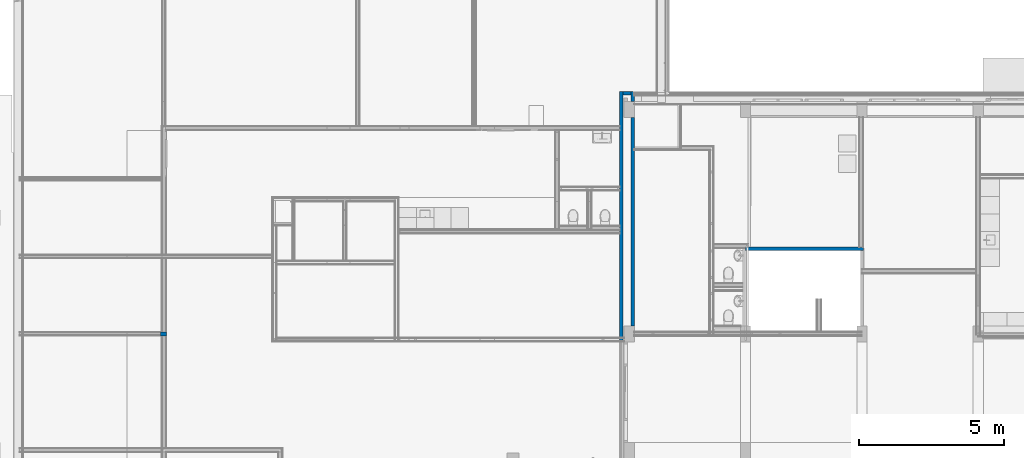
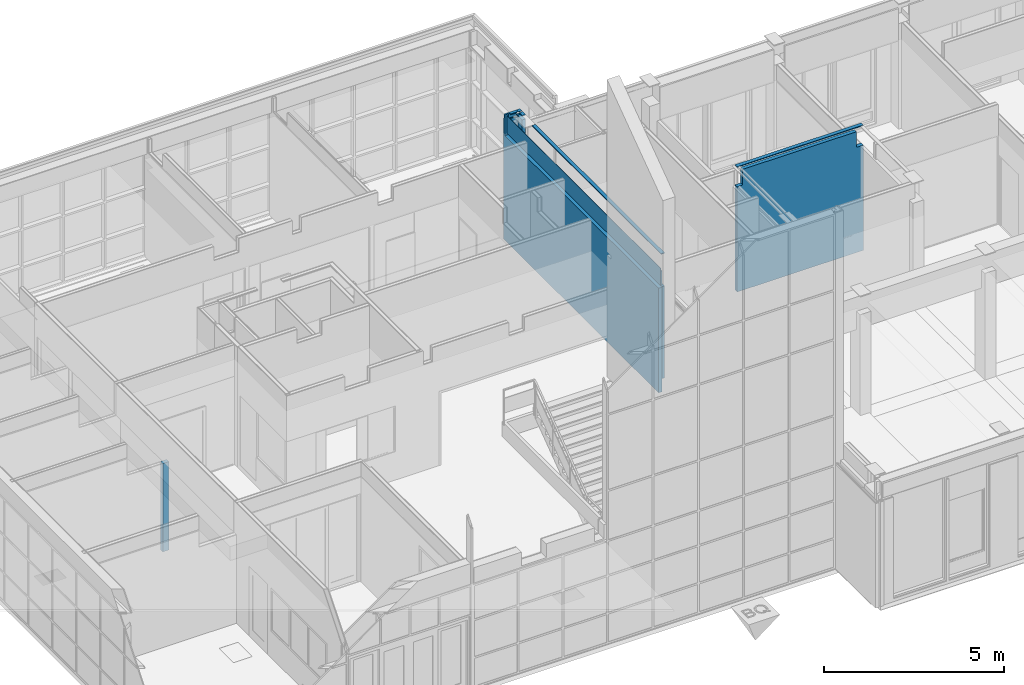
# One storey, part 18 of 109: 5 walls.
"""IFC2X3 building model written with IfcOpenShell, lengths in millimetres."""

from ifc_helpers import new_model, entity, si_unit, converted_unit, derived_unit, money_unit, direction, frame, origin_with_axes, place, context, subcontext, project, spatial, faceted_brep, material, type_object, element, save


model = new_model("IFC2X3")

# Units and contexts
model_context = context("Model", 3, precision=0.01, world=origin_with_axes(), true_north=direction((0.0, 1.0)))
body_context = subcontext(model_context, "Body", "Model", "MODEL_VIEW")
ifc_project = project(units=[si_unit("LENGTHUNIT", "METRE", prefix="MILLI"), si_unit("AREAUNIT", "SQUARE_METRE"), si_unit("VOLUMEUNIT", "CUBIC_METRE"), converted_unit("PLANEANGLEUNIT", "DEGREE", entity("IfcPlaneAngleMeasure", 0.0174532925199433), si_unit("PLANEANGLEUNIT", "RADIAN"), dimensions=[0, 0, 0, 0, 0, 0, 0]), money_unit("EUR"), converted_unit("TIMEUNIT", "Year", entity("IfcTimeMeasure", 31557600.0), si_unit("TIMEUNIT", "SECOND"), dimensions=[0, 0, 1, 0, 0, 0, 0]), si_unit("MASSUNIT", "GRAM", prefix="KILO"), si_unit("THERMODYNAMICTEMPERATUREUNIT", "DEGREE_CELSIUS"), si_unit("LUMINOUSINTENSITYUNIT", "LUMEN"), si_unit("ENERGYUNIT", "JOULE", prefix="MEGA"), derived_unit("THERMALCONDUCTANCEUNIT", [(si_unit("POWERUNIT", "WATT"), 1), (si_unit("LENGTHUNIT", "METRE"), -1), (si_unit("THERMODYNAMICTEMPERATUREUNIT", "KELVIN"), -1)]), derived_unit("SPECIFICHEATCAPACITYUNIT", [(si_unit("ENERGYUNIT", "JOULE"), 1), (si_unit("MASSUNIT", "GRAM", prefix="KILO"), -1), (si_unit("THERMODYNAMICTEMPERATUREUNIT", "KELVIN"), -1)]), derived_unit("MASSDENSITYUNIT", [(si_unit("MASSUNIT", "GRAM", prefix="KILO"), 1), (si_unit("VOLUMEUNIT", "CUBIC_METRE"), -1)])], contexts=[model_context])

# Site, building, storey
site_placement = place(None, origin_with_axes())
site = spatial("IfcSite", under=ifc_project, at=site_placement, Name="<site naam>", CompositionType="ELEMENT")
building_placement = place(site_placement, origin_with_axes())
building = spatial("IfcBuilding", under=site, at=building_placement, Name="<Naam gebouw>", CompositionType="ELEMENT")
storey_placement = place(building_placement, origin_with_axes())
storey = spatial("IfcBuildingStorey", under=building, at=storey_placement, Name="00 Begane grond", CompositionType="ELEMENT", Elevation=0.0)

# Walls
ifc_material_1 = material(Name="ALG - BUITENBLAD")
wall_type_1 = type_object("IfcWallType", Name="ALG - BUITENBLAD 200", PredefinedType="NOTDEFINED")
wall_1_placement = place(storey_placement, frame((-3919.999999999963, 11937.50000000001, 3.000000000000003), z_axis=(0.0, 0.0, 1.0), x_axis=(0.0, 1.0, 0.0)))
element("IfcWall", 1, at=wall_1_placement, inside=storey, type_object=wall_type_1, material=ifc_material_1, Name="21_Binnenwand_ALG", context=body_context, shape_type="Brep", body=[
    faceted_brep([(0.0, 0.0, 2997.0), (125.0, 0.0, 2997.0), (125.0, 200.0000000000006, 2997.0), (0.0, 200.0000000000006, 2997.0), (0.0, 0.0, 0.0), (125.0, 0.0, 0.0), (125.0, 199.9999999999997, 0.0), (0.0, 199.9999999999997, 0.0)], [[[0, 1, 2, 3]], [[4, 5, 1, 0]], [[2, 1, 5, 6]], [[3, 2, 6, 7]], [[4, 0, 3, 7]], [[7, 6, 5, 4]]]),
])
ifc_material_2 = material(Name="ALG - BINNENWAND")
wall_type_2 = type_object("IfcWallType", Name="ALG - BINNENWAND 120", PredefinedType="NOTDEFINED")
wall_2_placement = place(storey_placement, frame((15999.98510814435, 14985.54797767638, 0.0), z_axis=(0.0, 0.0, 1.0), x_axis=(0.9999999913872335, -0.0001312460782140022, 0.0)))
element("IfcWall", 2, at=wall_2_placement, inside=storey, type_object=wall_type_2, material=ifc_material_2, Name="22_Binnenwand_ALG", context=body_context, shape_type="Brep", body=[
    faceted_brep([(175.014893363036, 0.0, 4100.0), (3825.01492479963, 0.0, 4100.0), (3825.01492479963, 0.0, 3570.0), (4050.014926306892, 0.0, 3570.0), (4050.014926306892, 0.0, 0.0), (0.0, 0.0, 0.0), (0.0, 0.0, 3570.0), (175.014893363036, 0.0, 3570.0), (175.0306428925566, -119.9999999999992, 4100.0), (3825.030674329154, -119.9999999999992, 4100.0), (3825.030674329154, -119.9999999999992, 3570.0), (4050.014926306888, -119.9999999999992, 3570.0), (4050.014926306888, -119.9999999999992, 0.0), (0.0, -119.9999999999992, 0.0), (0.0, -119.9999999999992, 3570.0), (175.0306428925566, -119.9999999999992, 3570.0)], [[[0, 1, 2, 3, 4, 5, 6, 7]], [[8, 9, 1, 0]], [[10, 2, 1, 9]], [[10, 11, 3, 2]], [[4, 3, 11, 12]], [[13, 5, 4, 12]], [[13, 14, 6, 5]], [[15, 7, 6, 14]], [[15, 8, 0, 7]], [[11, 10, 9, 8, 15, 14, 13, 12]]]),
    faceted_brep([(4050.014926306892, 0.0, 4250.0), (4050.014926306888, -119.9999999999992, 4250.0), (4050.014926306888, -119.9999999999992, 4220.0), (4050.014926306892, 0.0, 4220.0), (0.0, 0.0, 4250.0), (0.0, -119.9999999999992, 4250.0), (0.0, -119.9999999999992, 4220.0), (0.0, 0.0, 4220.0)], [[[0, 1, 2, 3]], [[4, 5, 1, 0]], [[1, 5, 6, 2]], [[2, 6, 7, 3]], [[4, 0, 3, 7]], [[5, 4, 7, 6]]]),
])
wall_type_3 = type_object("IfcWallType", Name="ALG - BINNENWAND 110", PredefinedType="NOTDEFINED")
wall_3_placement = place(storey_placement, frame((11665.00000000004, 20334.99999999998, 0.0), z_axis=(0.0, 0.0, 1.0), x_axis=(0.0, -1.0, 0.0)))
element("IfcWall", 3, at=wall_3_placement, inside=storey, type_object=wall_type_3, material=ifc_material_2, Name="21_Binnenwand_ALG", context=body_context, shape_type="Brep", body=[
    faceted_brep([(69.99999999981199, 109.9999999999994, 3649.999908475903), (69.99999999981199, 109.9999999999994, 3549.999998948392), (8609.999999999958, 109.9999999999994, 3549.999998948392), (8609.999999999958, 109.9999999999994, 0.0), (0.0, 109.9999999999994, 0.0), (0.0, 109.9999999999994, 49.99999999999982), (0.0, 109.9999999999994, 4100.0), (10.00000241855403, 109.9999999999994, 4100.0), (10.00000241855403, 109.9999999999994, 4250.0), (69.99999999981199, 109.9999999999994, 4250.0), (70.0000000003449, 109.9999999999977, 4100.0), (8609.999999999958, 109.9999999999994, 4100.0), (8609.999999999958, 109.9999999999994, 3649.999908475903), (69.99999999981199, 89.99999800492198, 3649.999908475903), (69.99999999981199, 89.99999800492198, 3619.999897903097), (69.99999999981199, 59.99999570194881, 3619.999897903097), (69.99999999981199, 59.99999570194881, 4209.999936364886), (69.99999999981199, 70.49999999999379, 4209.999936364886), (70.0000000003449, 70.49999999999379, 4100.0), (69.99999999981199, 2.420893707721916e-06, 4250.0), (69.99999999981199, 2.420893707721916e-06, 3549.999998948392), (8609.999999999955, 2.420895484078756e-06, 3549.999998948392), (8609.999999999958, 0.0, 0.0), (0.0, 0.0, 0.0), (0.0, 0.0, 49.99999999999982), (0.0, 0.0, 4100.0), (10.00000241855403, 0.0, 4100.0), (10.00000241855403, 0.0, 4250.0), (8609.999999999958, 70.49999999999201, 4100.0), (8609.99999999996, 89.99999800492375, 3619.999897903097), (8609.99999999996, 89.99999800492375, 3649.999908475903), (8609.999999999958, 70.49999999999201, 4209.999936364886), (8609.999999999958, 59.99999570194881, 4209.999936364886), (8609.999999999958, 59.99999570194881, 3619.999897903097)], [[[0, 1, 2, 3, 4, 5, 6, 7, 8, 9, 10, 11, 12]], [[1, 0, 13, 14, 15, 16, 17, 18, 10, 9, 19, 20]], [[21, 2, 1, 20]], [[2, 21, 22, 3]], [[4, 3, 22, 23]], [[5, 4, 23, 24]], [[5, 24, 25, 6]], [[25, 26, 7, 6]], [[27, 8, 7, 26]], [[27, 19, 9, 8]], [[18, 28, 11, 10]], [[29, 30, 12, 11, 28, 31, 32, 33]], [[13, 0, 12, 30]], [[13, 30, 29, 14]], [[14, 29, 33, 15]], [[15, 33, 32, 16]], [[32, 31, 17, 16]], [[18, 17, 31, 28]], [[21, 20, 19, 27, 26, 25, 24, 23, 22]]]),
])
wall_4_placement = place(storey_placement, frame((12175.00000000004, 20334.99999999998, 0.0), z_axis=(0.0, 0.0, 1.0), x_axis=(0.0, -1.0, 0.0)))
element("IfcWall", 4, at=wall_4_placement, inside=storey, type_object=wall_type_3, material=ifc_material_2, Name="21_Binnenwand_ALG", context=body_context, shape_type="Brep", body=[
    faceted_brep([(884.999999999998, -109.9999999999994, 4250.0), (8059.999999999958, -110.000000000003, 4250.0), (8059.999999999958, 0.0, 4250.0), (884.999999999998, 0.0, 4250.0), (884.999999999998, -110.000000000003, 4220.0), (8059.999999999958, -110.000000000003, 4220.0), (8059.999999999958, 0.0, 4220.0), (884.999999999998, 0.0, 4220.0)], [[[0, 1, 2, 3]], [[4, 5, 1, 0]], [[5, 6, 2, 1]], [[3, 2, 6, 7]], [[4, 0, 3, 7]], [[7, 6, 5, 4]]]),
    faceted_brep([(884.999999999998, -109.9999999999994, 3120.0), (8059.999999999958, -109.9999999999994, 3120.0), (8059.999999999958, 0.0, 3120.0), (884.999999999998, 0.0, 3120.0), (884.999999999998, -109.9999999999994, 0.0), (8059.999999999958, -110.000000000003, 0.0), (8059.999999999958, 0.0, 0.0), (884.999999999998, 0.0, 0.0)], [[[0, 1, 2, 3]], [[4, 5, 1, 0]], [[5, 6, 2, 1]], [[3, 2, 6, 7]], [[4, 0, 3, 7]], [[7, 6, 5, 4]]]),
    faceted_brep([(170.000004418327, -109.9999999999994, 4250.0), (335.0000000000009, -109.9999999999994, 4250.0), (335.0000000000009, 0.0, 4250.0), (170.0000044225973, 0.0, 4250.0), (170.000004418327, -110.000000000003, 4220.0), (335.0000000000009, -110.000000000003, 4220.0), (335.0000000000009, 0.0, 4220.0), (170.0000044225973, 0.0, 4220.0)], [[[0, 1, 2, 3]], [[4, 5, 1, 0]], [[5, 6, 2, 1]], [[3, 2, 6, 7]], [[7, 4, 0, 3]], [[7, 6, 5, 4]]]),
    faceted_brep([(334.9999999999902, -110.000000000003, 4100.0), (335.0000000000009, -109.9999999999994, 0.0), (335.0000000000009, 0.0, 0.0), (334.9999999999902, -4.797747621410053e-05, 4100.0), (0.0, -109.9999999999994, 0.0), (69.99999296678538, -110.000000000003, 4100.0), (69.99999296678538, -109.9999999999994, 3579.999961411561), (99.99999526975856, -109.9999999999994, 3579.999961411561), (99.99999526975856, -109.9999999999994, 3609.999971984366), (129.9999975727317, -109.9999999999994, 3609.999971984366), (129.9999975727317, -109.9999999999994, 3510.000062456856), (9.999999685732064, -109.9999999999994, 3510.000062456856), (9.999999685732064, -109.9999999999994, 4100.0), (0.0, -109.9999999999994, 4100.0), (0.0, -109.9999999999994, 49.99999999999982), (0.0, 0.0, 0.0), (0.0, 0.0, 49.99999999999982), (0.0, 0.0, 4100.0), (9.999999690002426, 0.0, 4100.0), (9.999999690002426, 0.0, 3510.000062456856), (129.9999975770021, 0.0, 3510.000062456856), (129.9999975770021, 0.0, 3609.999971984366), (99.99999527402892, 0.0, 3609.999971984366), (99.99999527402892, 0.0, 3579.999961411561), (69.99999297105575, 0.0, 3579.999961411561), (69.99999297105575, 0.0, 4100.0)], [[[0, 1, 2, 3]], [[4, 1, 0, 5, 6, 7, 8, 9, 10, 11, 12, 13, 14]], [[15, 2, 1, 4]], [[3, 2, 15, 16, 17, 18, 19, 20, 21, 22, 23, 24, 25]], [[0, 3, 25, 5]], [[24, 6, 5, 25]], [[7, 6, 24, 23]], [[8, 7, 23, 22]], [[9, 8, 22, 21]], [[10, 9, 21, 20]], [[10, 20, 19, 11]], [[12, 11, 19, 18]], [[17, 13, 12, 18]], [[17, 16, 14, 13]], [[14, 16, 15, 4]]]),
    faceted_brep([(10.00000241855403, 0.0, 4250.0), (129.9999975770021, 0.0, 4250.0), (129.9999975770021, 0.0, 4239.999997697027), (9.999999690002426, 0.0, 4239.999997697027), (10.00000241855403, -109.9999999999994, 4250.0), (129.9999975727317, -109.9999999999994, 4250.0), (129.9999975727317, -109.9999999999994, 4239.999997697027), (9.999999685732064, -109.9999999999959, 4239.999997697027)], [[[0, 1, 2, 3]], [[4, 5, 1, 0]], [[6, 2, 1, 5]], [[6, 7, 3, 2]], [[0, 3, 7, 4]], [[7, 6, 5, 4]]]),
])
wall_5_placement = place(storey_placement, frame((11665.00000000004, 20334.99999999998, 50.0), z_axis=(0.0, 0.0, 1.0), x_axis=(1.0, 0.0, 0.0)))
element("IfcWall", 5, at=wall_5_placement, inside=storey, type_object=wall_type_3, material=ifc_material_2, Name="22_Binnenwand_ALG", context=body_context, shape_type="Brep", body=[
    faceted_brep([(400.0000000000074, -9.999999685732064, 3460.000062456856), (370.5294846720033, -9.99999968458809, 3460.000062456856), (370.5294846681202, -109.9999999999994, 3460.000062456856), (400.0000000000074, -109.9999999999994, 3460.000062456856), (400.0000000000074, -9.999999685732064, 4050.0), (370.5294846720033, -9.99999968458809, 4050.0), (370.5294846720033, -9.99999968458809, 4189.999997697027), (370.5294846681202, -109.9999999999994, 4189.999997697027), (370.5294846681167, -109.9999999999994, 4170.0), (370.5294846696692, -70.00000000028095, 4170.0), (370.5294846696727, -69.99999296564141, 4119.999999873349), (370.5294846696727, -69.99999296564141, 4050.0), (370.5294846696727, -69.99999296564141, 3529.999961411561), (370.5294846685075, -99.99999526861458, 3529.999961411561), (370.5294846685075, -99.99999526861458, 3559.999971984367), (370.5294846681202, -109.9999999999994, 3559.999971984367), (400.0000000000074, -109.9999999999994, 3559.999971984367), (400.0000000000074, -109.9999999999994, 4050.0), (109.9999999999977, -109.9999999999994, 4050.0), (109.9999999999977, -109.9999999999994, 3599.999908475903), (120.0000003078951, -109.9999999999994, 3599.999908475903), (120.0000003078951, -109.9999999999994, 3499.999998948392), (109.9999999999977, -109.9999999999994, 3499.999998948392), (109.9999999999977, -109.9999999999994, 0.0), (400.0000000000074, -109.9999999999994, 0.0), (400.0000000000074, 0.0, 0.0), (400.0000000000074, 0.0, 4050.0), (109.9999999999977, -10.00000241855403, 4050.0), (109.9999999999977, 0.0, 4050.0), (400.0000000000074, -9.999999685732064, 4189.999997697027), (109.9999999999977, -10.00000241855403, 4200.0), (400.0000000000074, -10.00000241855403, 4200.0), (400.0000000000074, -109.9999999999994, 4189.999997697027), (400.0000000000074, -109.9999999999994, 4200.0), (160.0000071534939, -109.9999999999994, 4200.0), (160.0000071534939, -109.9999999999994, 4170.0), (160.0000071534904, -69.99999999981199, 4170.0), (160.0000071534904, -69.99999999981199, 4200.0), (109.9999999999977, -69.99999999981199, 4200.0), (109.9999999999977, -70.0000000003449, 4050.0), (400.0000000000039, -69.99999296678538, 4050.0), (400.0000000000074, -69.99999296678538, 3529.999961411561), (400.0000000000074, -99.99999526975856, 3529.999961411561), (400.0000000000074, -99.99999526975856, 3559.999971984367), (109.9999999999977, 0.0, 0.0), (109.9999999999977, -69.99999999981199, 3499.999998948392), (109.9999999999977, -69.99999999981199, 3599.999908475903), (120.0000003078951, -69.99999999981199, 3599.999908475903), (120.0000003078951, -69.99999999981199, 3499.999998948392)], [[[0, 1, 2, 3]], [[1, 0, 4, 5]], [[2, 1, 5, 6, 7, 8, 9, 10, 11, 12, 13, 14, 15]], [[2, 15, 16, 17, 18, 19, 20, 21, 22, 23, 24, 3]], [[0, 3, 24, 25, 26, 4]], [[27, 5, 4, 26, 28]], [[29, 6, 5, 27, 30, 31]], [[7, 6, 29, 32]], [[8, 7, 32, 33, 34, 35]], [[36, 9, 8, 35]], [[11, 10, 9, 36, 37, 38, 39]], [[12, 11, 40, 41]], [[12, 41, 42, 13]], [[13, 42, 43, 14]], [[14, 43, 16, 15]], [[42, 41, 40, 17, 16, 43]], [[17, 40, 11, 39, 18]], [[39, 38, 30, 27, 28, 44, 23, 22, 45, 46, 19, 18]], [[47, 20, 19, 46]], [[48, 21, 20, 47]], [[45, 22, 21, 48]], [[23, 44, 25, 24]], [[25, 44, 28, 26]], [[38, 37, 34, 33, 31, 30]], [[33, 32, 29, 31]], [[35, 34, 37, 36]], [[47, 46, 45, 48]]]),
])

save(model, "model.ifc")
